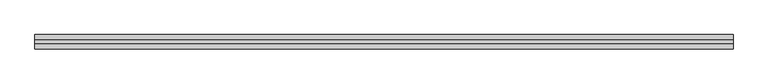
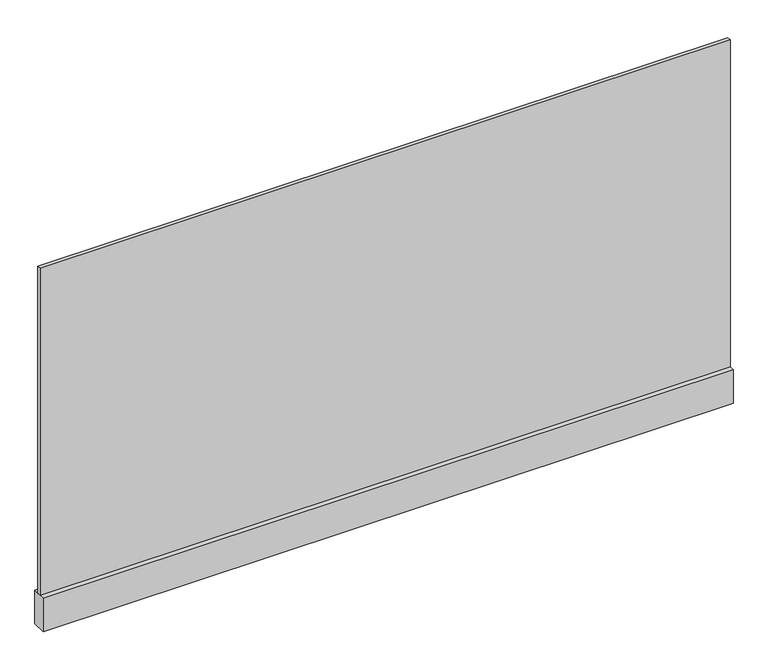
"""IFC4 building model written with IfcOpenShell, lengths in millimetres: plate geometry, r パネル FIX 下框付 : 框 H100."""

from ifc_helpers import new_model, si_unit, frame, origin, origin_with_axes, place, context, project, spatial, polyline, outline, extrude, source, transform, mapped, element, save


def plate_2f85ae4c(model_context):
    return source(origin(), model_context, "Body", "SweptSolid", [
        extrude(outline(polyline([(-973.3333333, 5.0), (973.3333333, 5.0), (973.3333333, -5.0), (-973.3333333, -5.0), (-973.3333333, 5.0)])), frame((0.0, 0.0, 100.0), z_axis=(0.0, 0.0, 1.0), x_axis=(1.0, 0.0, 0.0)), (0.0, 0.0, 1.0), 975.0),
        extrude(outline(polyline([(-973.3333333, 20.0), (973.3333333, 20.0), (973.3333333, -20.0), (-973.3333333, -20.0), (-973.3333333, 20.0)])), origin_with_axes(), (0.0, 0.0, 1.0), 100.0),
    ])


if __name__ == "__main__":
    model = new_model("IFC4")
    model_context = context("Model", 3, world=origin())
    ifc_project = project(units=[si_unit("LENGTHUNIT", "METRE", prefix="MILLI")], contexts=[model_context])
    site = spatial("IfcSite", under=ifc_project)
    building = spatial("IfcBuilding", under=site)
    placement = place(None, origin())
    plate_shape = plate_2f85ae4c(model_context)
    element("IfcPlate", 1, ObjectType="r パネル FIX 下框付 : 框 H100", at=placement, inside=building, context=model_context, shape_type="MappedRepresentation", body=[
        mapped(plate_shape, transform((0.0, 0.0, 0.0), x_axis=(1.0, 0.0, 0.0), y_axis=(0.0, 1.0, 0.0), z_axis=(0.0, 0.0, 1.0))),
    ])
    save(model, "model.ifc")
